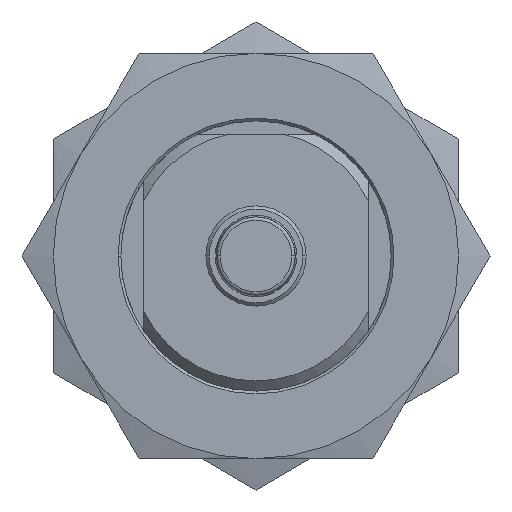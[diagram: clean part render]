
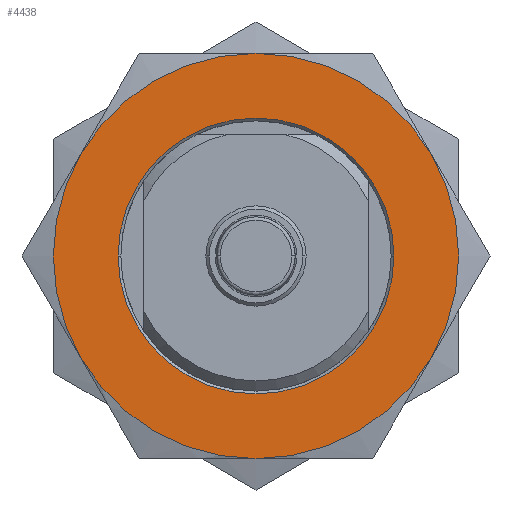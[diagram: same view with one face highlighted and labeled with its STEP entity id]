
A CAD part, front view. The second image highlights one B-rep face of the part: STEP entity #4438.
In plain terms, the highlighted planar face has unit normal (0, -1, 0) as drawn and (1, 0, 0) by its records, which use the part's own axes.
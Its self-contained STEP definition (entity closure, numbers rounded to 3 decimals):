
#3700=CARTESIAN_POINT('',(4.,0.,0.));
#3701=DIRECTION('',(-1.,0.,0.));
#3702=DIRECTION('',(0.,0.,-1.));
#3703=AXIS2_PLACEMENT_3D('',#3700,#3701,#3702);
#3708=CARTESIAN_POINT('',(4.,0.,0.));
#3709=DIRECTION('',(-1.,0.,0.));
#3710=DIRECTION('',(0.,0.,1.));
#3711=AXIS2_PLACEMENT_3D('',#3708,#3709,#3710);
#3716=CARTESIAN_POINT('',(4.,0.,0.));
#3717=DIRECTION('',(-1.,0.,0.));
#3718=DIRECTION('',(0.,-0.5,-0.866));
#3719=AXIS2_PLACEMENT_3D('',#3716,#3717,#3718);
#3724=CARTESIAN_POINT('',(4.,0.,0.));
#3725=DIRECTION('',(-1.,0.,0.));
#3726=DIRECTION('',(0.,-1.,0.));
#3727=AXIS2_PLACEMENT_3D('',#3724,#3725,#3726);
#3732=CARTESIAN_POINT('',(4.,0.,0.));
#3733=DIRECTION('',(-1.,0.,0.));
#3734=DIRECTION('',(0.,0.5,0.866));
#3735=AXIS2_PLACEMENT_3D('',#3732,#3733,#3734);
#3740=CARTESIAN_POINT('',(4.,0.,0.));
#3741=DIRECTION('',(-1.,0.,0.));
#3742=DIRECTION('',(0.,1.,0.));
#3743=AXIS2_PLACEMENT_3D('',#3740,#3741,#3742);
#3778=CARTESIAN_POINT('',(4.,0.,0.));
#3779=DIRECTION('',(1.,0.,0.));
#3780=DIRECTION('',(0.,-0.5,-0.866));
#3781=AXIS2_PLACEMENT_3D('',#3778,#3779,#3780);
#4264=CARTESIAN_POINT('',(4.,0.,0.));
#4265=DIRECTION('',(1.,0.,0.));
#4266=DIRECTION('',(0.,0.5,0.866));
#4267=AXIS2_PLACEMENT_3D('',#4264,#4265,#4266);
#4272=CARTESIAN_POINT('',(4.,0.,-12.25));
#4273=CARTESIAN_POINT('',(4.,0.,12.25));
#4274=VERTEX_POINT('',#4272);
#4275=VERTEX_POINT('',#4273);
#4318=CARTESIAN_POINT('',(4.,-9.,-15.588));
#4319=CARTESIAN_POINT('',(4.,-18.,0.));
#4320=VERTEX_POINT('',#4318);
#4321=VERTEX_POINT('',#4319);
#4322=CARTESIAN_POINT('',(4.,-9.,15.588));
#4323=VERTEX_POINT('',#4322);
#4324=CARTESIAN_POINT('',(4.,9.,15.588));
#4325=CARTESIAN_POINT('',(4.,18.,0.));
#4326=VERTEX_POINT('',#4324);
#4327=VERTEX_POINT('',#4325);
#4328=CARTESIAN_POINT('',(4.,9.,-15.588));
#4329=VERTEX_POINT('',#4328);
#4414=CARTESIAN_POINT('',(4.,0.,0.));
#4415=DIRECTION('',(1.,0.,0.));
#4416=DIRECTION('',(0.,0.,-1.));
#4417=AXIS2_PLACEMENT_3D('',#4414,#4415,#4416);
#4418=PLANE('',#4417);
#4420=ORIENTED_EDGE('',*,*,#4419,.F.);
#4422=ORIENTED_EDGE('',*,*,#4421,.T.);
#4424=ORIENTED_EDGE('',*,*,#4423,.T.);
#4426=ORIENTED_EDGE('',*,*,#4425,.F.);
#4428=ORIENTED_EDGE('',*,*,#4427,.T.);
#4430=ORIENTED_EDGE('',*,*,#4429,.T.);
#4431=EDGE_LOOP('',(#4420,#4422,#4424,#4426,#4428,#4430));
#4432=FACE_OUTER_BOUND('',#4431,.F.);
#4434=ORIENTED_EDGE('',*,*,#4433,.F.);
#4435=ORIENTED_EDGE('',*,*,#4404,.F.);
#4436=EDGE_LOOP('',(#4434,#4435));
#4437=FACE_BOUND('',#4436,.F.);
#3704=CIRCLE('',#3703,12.25);
#3712=CIRCLE('',#3711,12.25);
#3720=CIRCLE('',#3719,18.);
#3728=CIRCLE('',#3727,18.);
#3736=CIRCLE('',#3735,18.);
#3744=CIRCLE('',#3743,18.);
#3782=CIRCLE('',#3781,18.);
#4268=CIRCLE('',#4267,18.);
#4404=EDGE_CURVE('',#4275,#4274,#3712,.T.);
#4419=EDGE_CURVE('',#4320,#4329,#3782,.T.);
#4421=EDGE_CURVE('',#4320,#4321,#3720,.T.);
#4423=EDGE_CURVE('',#4321,#4323,#3728,.T.);
#4425=EDGE_CURVE('',#4326,#4323,#4268,.T.);
#4427=EDGE_CURVE('',#4326,#4327,#3736,.T.);
#4429=EDGE_CURVE('',#4327,#4329,#3744,.T.);
#4433=EDGE_CURVE('',#4274,#4275,#3704,.T.);
#4438=ADVANCED_FACE('',(#4432,#4437),#4418,.T.);
